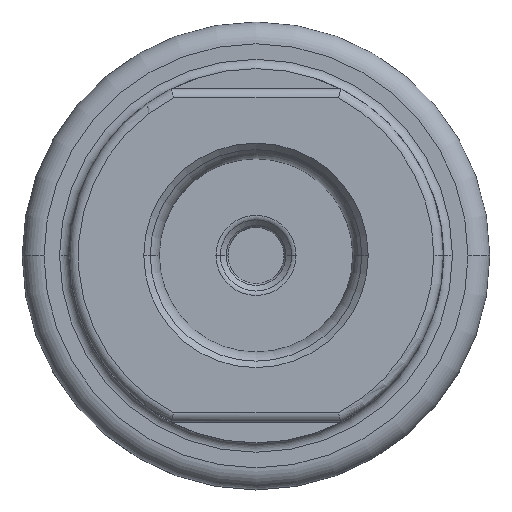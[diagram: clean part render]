
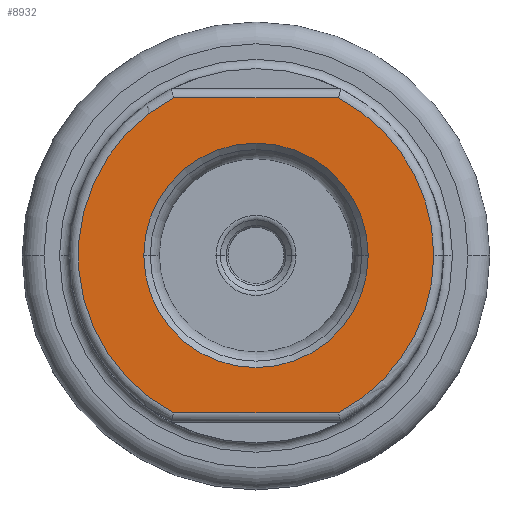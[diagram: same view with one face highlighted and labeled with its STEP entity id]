
A CAD part, top view. The second image highlights one B-rep face of the part: STEP entity #8932.
In plain terms, the highlighted planar face has unit normal (0, 0, 1).
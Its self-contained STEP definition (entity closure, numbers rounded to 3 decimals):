
#220 = CARTESIAN_POINT ( 'NONE',  ( 0., 0., 12.4 ) ) ;
#594 = DIRECTION ( 'NONE',  ( 0., 0., 1. ) ) ;
#675 = DIRECTION ( 'NONE',  ( -1., 0., 0. ) ) ;
#800 = VERTEX_POINT ( 'NONE', #1416 ) ;
#895 = CARTESIAN_POINT ( 'NONE',  ( 2.643, -5.05, 12.4 ) ) ;
#939 = ORIENTED_EDGE ( 'NONE', *, *, #7416, .T. ) ;
#1073 = CIRCLE ( 'NONE', #7492, 3.6 ) ;
#1112 = DIRECTION ( 'NONE',  ( 0., 0., -1. ) ) ;
#1165 = EDGE_CURVE ( 'NONE', #9402, #6827, #4605, .T. ) ;
#1416 = CARTESIAN_POINT ( 'NONE',  ( 3.6, 0., 12.4 ) ) ;
#1521 = DIRECTION ( 'NONE',  ( 1., 0., 0. ) ) ;
#1670 = ORIENTED_EDGE ( 'NONE', *, *, #1165, .T. ) ;
#1971 = EDGE_CURVE ( 'NONE', #7497, #800, #9383, .T. ) ;
#2758 = EDGE_CURVE ( 'NONE', #7878, #5098, #8368, .T. ) ;
#2941 = CARTESIAN_POINT ( 'NONE',  ( 0., 0., 12.4 ) ) ;
#2948 = AXIS2_PLACEMENT_3D ( 'NONE', #7740, #10747, #8705 ) ;
#3062 = CARTESIAN_POINT ( 'NONE',  ( -2.643, -5.05, 12.4 ) ) ;
#3122 = DIRECTION ( 'NONE',  ( 1., 0., 0. ) ) ;
#3521 = FACE_OUTER_BOUND ( 'NONE', #9497, .T. ) ;
#3987 = DIRECTION ( 'NONE',  ( 0., 0., -1. ) ) ;
#3997 = AXIS2_PLACEMENT_3D ( 'NONE', #7437, #11177, #5486 ) ;
#4605 = CIRCLE ( 'NONE', #8218, 5.7 ) ;
#4618 = VECTOR ( 'NONE', #10510, 1000. ) ;
#4633 = EDGE_CURVE ( 'NONE', #11014, #7878, #10463, .T. ) ;
#4836 = ORIENTED_EDGE ( 'NONE', *, *, #1971, .T. ) ;
#5058 = CIRCLE ( 'NONE', #9860, 5.7 ) ;
#5098 = VERTEX_POINT ( 'NONE', #3062 ) ;
#5179 = EDGE_CURVE ( 'NONE', #6827, #11014, #5058, .T. ) ;
#5302 = CARTESIAN_POINT ( 'NONE',  ( 0., 0., 12.4 ) ) ;
#5461 = VECTOR ( 'NONE', #675, 1000. ) ;
#5486 = DIRECTION ( 'NONE',  ( 1., 0., 0. ) ) ;
#5691 = ORIENTED_EDGE ( 'NONE', *, *, #5179, .T. ) ;
#5738 = CARTESIAN_POINT ( 'NONE',  ( 5.7, 0., 12.4 ) ) ;
#5863 = EDGE_CURVE ( 'NONE', #800, #7497, #1073, .T. ) ;
#6827 = VERTEX_POINT ( 'NONE', #5738 ) ;
#6928 = LINE ( 'NONE', #10753, #4618 ) ;
#7241 = EDGE_LOOP ( 'NONE', ( #10246, #4836 ) ) ;
#7327 = CARTESIAN_POINT ( 'NONE',  ( -1.967, 5.05, 12.4 ) ) ;
#7337 = CARTESIAN_POINT ( 'NONE',  ( 2.643, 5.05, 12.4 ) ) ;
#7366 = PLANE ( 'NONE',  #3997 ) ;
#7372 = AXIS2_PLACEMENT_3D ( 'NONE', #220, #1112, #11578 ) ;
#7416 = EDGE_CURVE ( 'NONE', #5098, #9402, #6928, .T. ) ;
#7437 = CARTESIAN_POINT ( 'NONE',  ( 0., 0., 12.4 ) ) ;
#7492 = AXIS2_PLACEMENT_3D ( 'NONE', #2941, #3987, #3122 ) ;
#7497 = VERTEX_POINT ( 'NONE', #10867 ) ;
#7740 = CARTESIAN_POINT ( 'NONE',  ( 0., 0., 12.4 ) ) ;
#7878 = VERTEX_POINT ( 'NONE', #10975 ) ;
#8015 = DIRECTION ( 'NONE',  ( 0., 0., 1. ) ) ;
#8142 = DIRECTION ( 'NONE',  ( 1., 0., 0. ) ) ;
#8218 = AXIS2_PLACEMENT_3D ( 'NONE', #5302, #594, #1521 ) ;
#8368 = CIRCLE ( 'NONE', #2948, 5.7 ) ;
#8705 = DIRECTION ( 'NONE',  ( 1., 0., 0. ) ) ;
#8932 = ADVANCED_FACE ( 'NONE', ( #12126, #3521 ), #7366, .T. ) ;
#9092 = CARTESIAN_POINT ( 'NONE',  ( 0., 0., 12.4 ) ) ;
#9383 = CIRCLE ( 'NONE', #7372, 3.6 ) ;
#9402 = VERTEX_POINT ( 'NONE', #895 ) ;
#9497 = EDGE_LOOP ( 'NONE', ( #10599, #939, #1670, #5691, #9708 ) ) ;
#9708 = ORIENTED_EDGE ( 'NONE', *, *, #4633, .T. ) ;
#9860 = AXIS2_PLACEMENT_3D ( 'NONE', #9092, #8015, #8142 ) ;
#10246 = ORIENTED_EDGE ( 'NONE', *, *, #5863, .T. ) ;
#10463 = LINE ( 'NONE', #7327, #5461 ) ;
#10510 = DIRECTION ( 'NONE',  ( 1., 0., 0. ) ) ;
#10599 = ORIENTED_EDGE ( 'NONE', *, *, #2758, .T. ) ;
#10747 = DIRECTION ( 'NONE',  ( 0., 0., 1. ) ) ;
#10753 = CARTESIAN_POINT ( 'NONE',  ( 1.967, -5.05, 12.4 ) ) ;
#10867 = CARTESIAN_POINT ( 'NONE',  ( -3.6, 0., 12.4 ) ) ;
#10975 = CARTESIAN_POINT ( 'NONE',  ( -2.643, 5.05, 12.4 ) ) ;
#11014 = VERTEX_POINT ( 'NONE', #7337 ) ;
#11177 = DIRECTION ( 'NONE',  ( 0., 0., 1. ) ) ;
#11578 = DIRECTION ( 'NONE',  ( 1., 0., 0. ) ) ;
#12126 = FACE_BOUND ( 'NONE', #7241, .T. ) ;
